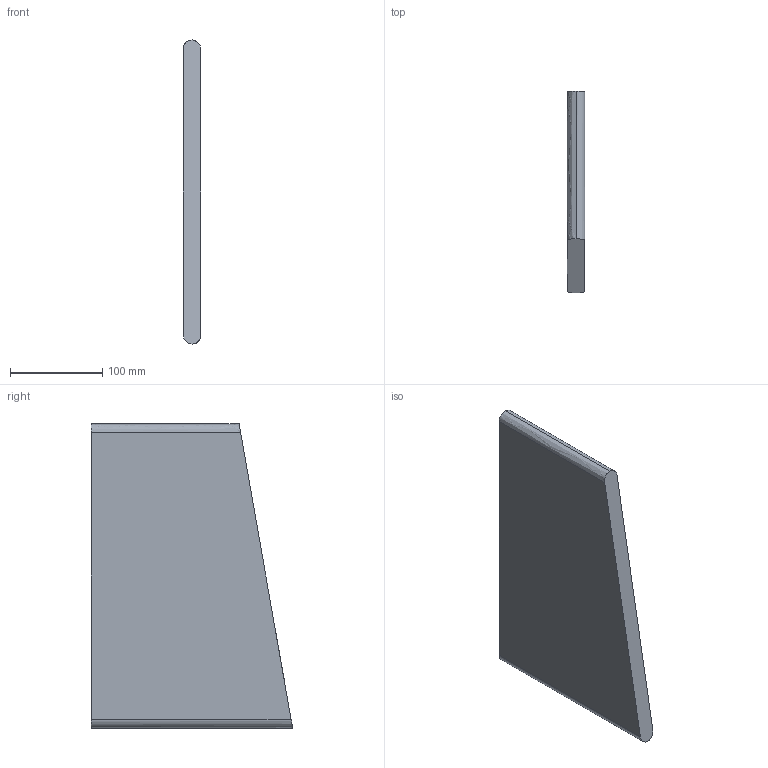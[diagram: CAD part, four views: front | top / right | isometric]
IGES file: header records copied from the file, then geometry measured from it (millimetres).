
Start section:  PTC IGES file: C:\Documents and Settings\Brad\Desktop\IGES\brace_top_ba ck.igs
Global section: file name: C:\Documents and Settings\Brad\Desktop\IGES\brace_top_back.igs; native system: Brad by Parametric Technology Corporation; preprocessor: 2003250; author: Unknown; organization: PTC; date: 040521.142625; units: inch
Bounding box: 19.05 x 218.63 x 330.2 mm (x, y, z)
Volume: 1177159.4 mm3; surface area: 141776 mm2
Topology: 1 solids, 1 shells, 8 faces, 18 edges, 12 vertices
Faces by surface type: bspline 4, revolution 4
